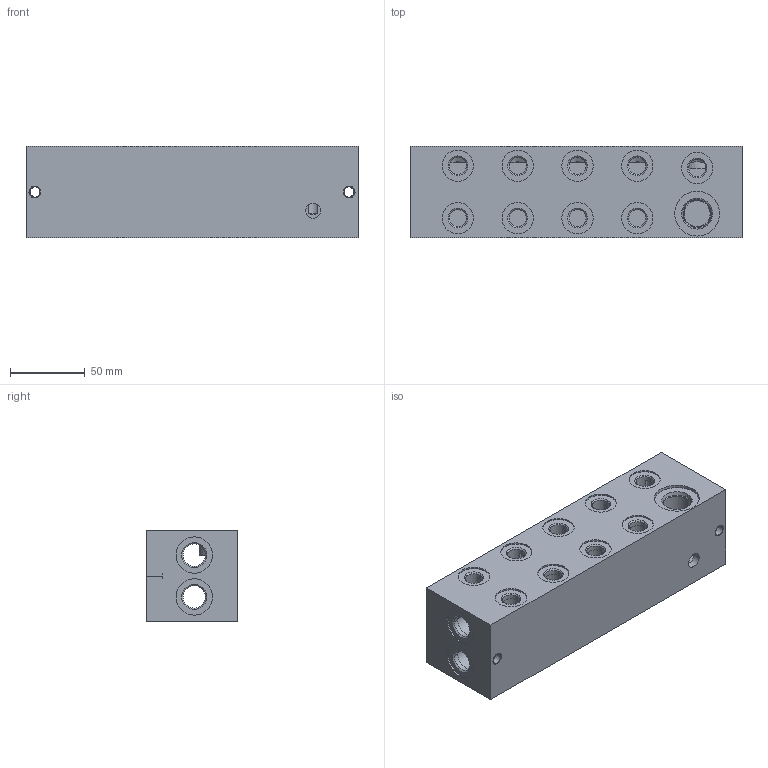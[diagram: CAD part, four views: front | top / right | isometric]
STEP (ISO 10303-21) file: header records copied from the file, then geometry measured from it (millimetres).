
FILE_DESCRIPTION((''),'2;1');
FILE_NAME('760_7040','2015-11-27T',('Ahcz.brigadnik05'),(''),'PRO/ENGINEER BY PARAMETRIC TECHNOLOGY CORPORATION, 2015110','PRO/ENGINEER BY PARAMETRIC TECHNOLOGY CORPORATION, 2015110','');
FILE_SCHEMA(('AUTOMOTIVE_DESIGN { 1 0 10303 214 1 1 1 1 }'));
Length unit declared in the file: millimetre
Products named in the file (1): 760_7040
Bounding box: 222 x 61 x 61 mm (x, y, z)
Volume: 309036.8 mm3; surface area: 126594.7 mm2
Topology: 1 solids, 38 shells, 347 faces, 1635 edges, 1510 vertices
Faces by surface type: cylinder 226, plane 70, cone 51
Entity records: 18290 total; most frequent: CARTESIAN_POINT 3833, DIRECTION 2795, ORIENTED_EDGE 1786, VECTOR 1007, LINE 1007, EDGE_CURVE 967, AXIS2_PLACEMENT_3D 894, TRIMMED_CURVE 663
